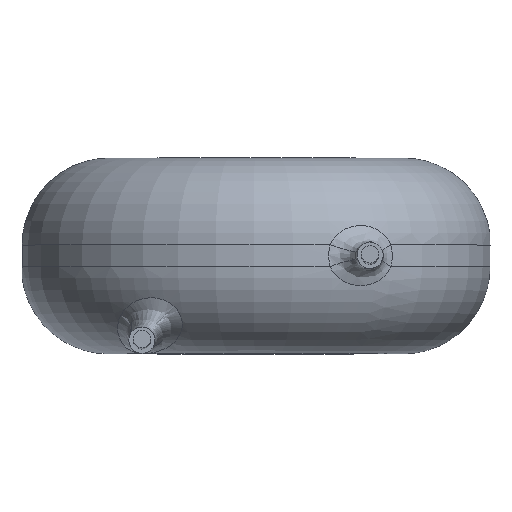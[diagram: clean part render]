
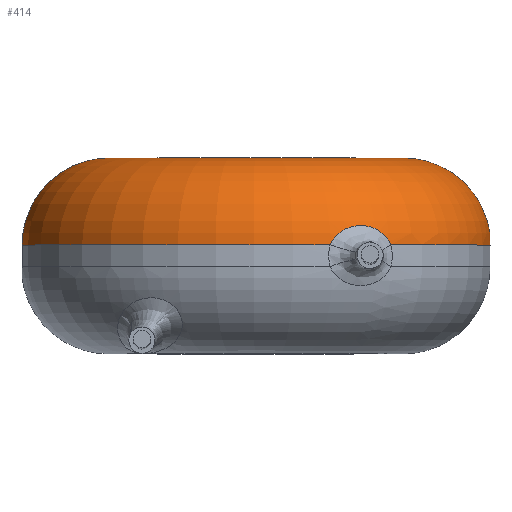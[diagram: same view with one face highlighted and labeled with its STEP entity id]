
A CAD part, top view. The second image highlights one B-rep face of the part: STEP entity #414.
In plain terms, the highlighted toroidal (fillet/blend) face has major radius 6.8 mm and minor radius 4 mm.
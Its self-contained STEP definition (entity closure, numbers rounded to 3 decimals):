
#31=FACE_BOUND('',#88,.T.);
#39=TOROIDAL_SURFACE('',#451,6.8,4.);
#55=FACE_OUTER_BOUND('',#87,.T.);
#87=EDGE_LOOP('',(#283,#284,#285,#286,#287));
#88=EDGE_LOOP('',(#288));
#120=B_SPLINE_CURVE_WITH_KNOTS('',3,(#645,#646,#647,#648,#649,#650,#651,
#652),.UNSPECIFIED.,.F.,.F.,(4,1,1,1,1,4),(-0.431,-0.369,
-0.308,-0.185,-0.092,0.),
 .UNSPECIFIED.);
#131=B_SPLINE_CURVE_WITH_KNOTS('',3,(#842,#843,#844,#845,#846),
 .UNSPECIFIED.,.F.,.F.,(4,1,4),(-0.302,-0.151,0.),
 .UNSPECIFIED.);
#132=B_SPLINE_CURVE_WITH_KNOTS('',3,(#848,#849,#850,#851,#852,#853),
 .UNSPECIFIED.,.F.,.F.,(4,1,1,4),(-0.429,-0.245,
-0.123,0.),.UNSPECIFIED.);
#148=CIRCLE('',#447,10.8);
#151=CIRCLE('',#452,10.8);
#152=CIRCLE('',#453,6.8);
#170=VERTEX_POINT('',#632);
#172=VERTEX_POINT('',#643);
#178=VERTEX_POINT('',#790);
#182=VERTEX_POINT('',#841);
#183=VERTEX_POINT('',#847);
#184=VERTEX_POINT('',#855);
#205=EDGE_CURVE('',#170,#172,#120,.T.);
#216=EDGE_CURVE('',#178,#172,#148,.T.);
#222=EDGE_CURVE('',#178,#182,#131,.T.);
#223=EDGE_CURVE('',#182,#183,#132,.T.);
#224=EDGE_CURVE('',#170,#183,#151,.T.);
#225=EDGE_CURVE('',#184,#184,#152,.T.);
#283=ORIENTED_EDGE('',*,*,#205,.T.);
#284=ORIENTED_EDGE('',*,*,#216,.F.);
#285=ORIENTED_EDGE('',*,*,#222,.T.);
#286=ORIENTED_EDGE('',*,*,#223,.T.);
#287=ORIENTED_EDGE('',*,*,#224,.F.);
#288=ORIENTED_EDGE('',*,*,#225,.F.);
#414=ADVANCED_FACE('',(#55,#31),#39,.T.);
#447=AXIS2_PLACEMENT_3D('',#795,#500,#501);
#451=AXIS2_PLACEMENT_3D('',#840,#508,#509);
#452=AXIS2_PLACEMENT_3D('',#854,#510,#511);
#453=AXIS2_PLACEMENT_3D('',#856,#512,#513);
#500=DIRECTION('center_axis',(0.,-1.,0.));
#501=DIRECTION('ref_axis',(-1.,0.,0.));
#508=DIRECTION('center_axis',(0.,1.,0.));
#509=DIRECTION('ref_axis',(-1.,0.,0.));
#510=DIRECTION('center_axis',(0.,-1.,0.));
#511=DIRECTION('ref_axis',(-1.,0.,0.));
#512=DIRECTION('center_axis',(0.,1.,0.));
#513=DIRECTION('ref_axis',(-1.,0.,0.));
#632=CARTESIAN_POINT('',(-3.53,11.167,10.246));
#643=CARTESIAN_POINT('',(-0.748,11.167,8.846));
#645=CARTESIAN_POINT('Ctrl Pts',(-3.53,11.167,10.246));
#646=CARTESIAN_POINT('Ctrl Pts',(-3.472,11.322,10.227));
#647=CARTESIAN_POINT('Ctrl Pts',(-3.287,11.607,10.145));
#648=CARTESIAN_POINT('Ctrl Pts',(-2.737,12.,9.867));
#649=CARTESIAN_POINT('Ctrl Pts',(-1.957,12.118,9.467));
#650=CARTESIAN_POINT('Ctrl Pts',(-1.151,11.799,9.074));
#651=CARTESIAN_POINT('Ctrl Pts',(-0.834,11.395,8.906));
#652=CARTESIAN_POINT('Ctrl Pts',(-0.748,11.167,8.846));
#790=CARTESIAN_POINT('',(-9.581,11.167,-10.473));
#795=CARTESIAN_POINT('Origin',(-6.944,11.167,0.));
#840=CARTESIAN_POINT('Origin',(-6.944,11.167,0.));
#841=CARTESIAN_POINT('',(-11.088,12.523,-9.716));
#842=CARTESIAN_POINT('Ctrl Pts',(-9.581,11.167,-10.473));
#843=CARTESIAN_POINT('Ctrl Pts',(-9.665,11.496,-10.452));
#844=CARTESIAN_POINT('Ctrl Pts',(-10.03,12.116,-10.269));
#845=CARTESIAN_POINT('Ctrl Pts',(-10.714,12.454,-9.903));
#846=CARTESIAN_POINT('Ctrl Pts',(-11.088,12.523,-9.716));
#847=CARTESIAN_POINT('',(-13.549,11.167,-8.545));
#848=CARTESIAN_POINT('Ctrl Pts',(-11.088,12.523,-9.716));
#849=CARTESIAN_POINT('Ctrl Pts',(-11.543,12.607,-9.489));
#850=CARTESIAN_POINT('Ctrl Pts',(-12.365,12.561,-9.087));
#851=CARTESIAN_POINT('Ctrl Pts',(-13.261,11.954,-8.696));
#852=CARTESIAN_POINT('Ctrl Pts',(-13.504,11.435,-8.58));
#853=CARTESIAN_POINT('Ctrl Pts',(-13.549,11.167,-8.545));
#854=CARTESIAN_POINT('Origin',(-6.944,11.167,0.));
#855=CARTESIAN_POINT('',(-0.144,15.167,0.));
#856=CARTESIAN_POINT('Origin',(-6.944,15.167,0.));
